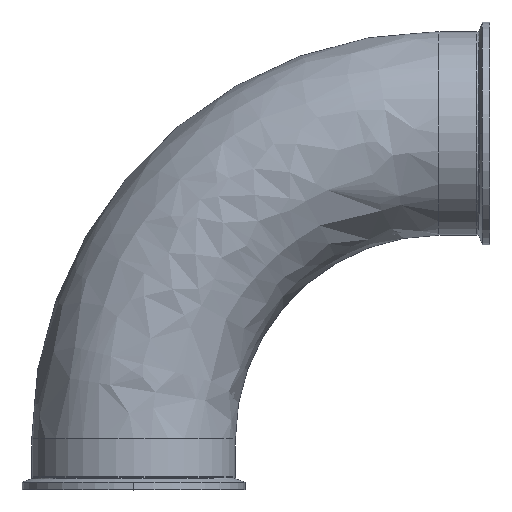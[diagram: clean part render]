
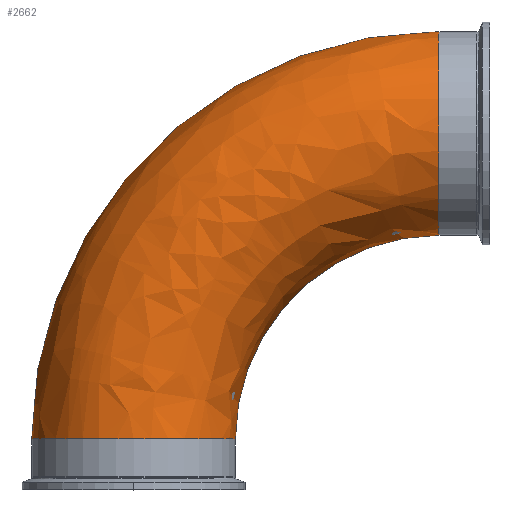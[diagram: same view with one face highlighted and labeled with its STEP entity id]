
A CAD part, top view. The second image highlights one B-rep face of the part: STEP entity #2662.
In plain terms, the highlighted free-form (B-spline) face has degree [3, 3] with [4, 4] control points.
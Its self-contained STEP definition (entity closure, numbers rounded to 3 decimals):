
#44 = CARTESIAN_POINT ( 'NONE',  ( 76.2, 28.1, 152.4 ) ) ;
#395 = CARTESIAN_POINT ( 'NONE',  ( 139.326, 180.5, 152.4 ) ) ;
#505 = VERTEX_POINT ( 'NONE', #1196 ) ;
#550 = EDGE_LOOP ( 'NONE', ( #1767, #1902, #2512, #2394 ) ) ;
#715 = CARTESIAN_POINT ( 'NONE',  ( 76.2, 28.1, 0. ) ) ;
#821 = EDGE_CURVE ( 'NONE', #3144, #505, #1293, .T. ) ;
#827 = CARTESIAN_POINT ( 'NONE',  ( 228.6, 256.7, 0. ) ) ;
#1040 = CARTESIAN_POINT ( 'NONE',  ( 139.326, 180.5, 0. ) ) ;
#1160 = DIRECTION ( 'NONE',  ( 0., 1., 0. ) ) ;
#1196 = CARTESIAN_POINT ( 'NONE',  ( 76.2, 28.1, 0. ) ) ;
#1293 = CIRCLE ( 'NONE', #3951, 76.2 ) ;
#1294 = FACE_OUTER_BOUND ( 'NONE', #550, .T. ) ;
#1350 = CARTESIAN_POINT ( 'NONE',  ( 228.6, 332.9, 0. ) ) ;
#1666 = DIRECTION ( 'NONE',  ( 0., 0., -1. ) ) ;
#1671 = CARTESIAN_POINT ( 'NONE',  ( -76.2, 206.648, 152.4 ) ) ;
#1767 = ORIENTED_EDGE ( 'NONE', *, *, #821, .T. ) ;
#1807 = CARTESIAN_POINT ( 'NONE',  ( 228.6, 28.1, 0. ) ) ;
#1902 = ORIENTED_EDGE ( 'NONE', *, *, #3214, .T. ) ;
#1973 = CARTESIAN_POINT ( 'NONE',  ( 228.6, 180.5, 0. ) ) ;
#1998 = CARTESIAN_POINT ( 'NONE',  ( 228.6, 332.9, 152.4 ) ) ;
#2141 = DIRECTION ( 'NONE',  ( -1., 0., 0. ) ) ;
#2353 = CARTESIAN_POINT ( 'NONE',  ( 76.2, 117.374, 152.4 ) ) ;
#2394 = ORIENTED_EDGE ( 'NONE', *, *, #2863, .F. ) ;
#2512 = ORIENTED_EDGE ( 'NONE', *, *, #4203, .T. ) ;
#2656 = CARTESIAN_POINT ( 'NONE',  ( -76.2, 28.1, 0. ) ) ;
#2662 = ADVANCED_FACE ( 'NONE', ( #1294 ), #3917, .T. ) ;
#2673 = CARTESIAN_POINT ( 'NONE',  ( 228.6, 180.5, 152.4 ) ) ;
#2688 = AXIS2_PLACEMENT_3D ( 'NONE', #3675, #1666, #3996 ) ;
#2781 = CARTESIAN_POINT ( 'NONE',  ( -76.2, 28.1, 0. ) ) ;
#2863 = EDGE_CURVE ( 'NONE', #3144, #4022, #3222, .T. ) ;
#2885 = VERTEX_POINT ( 'NONE', #1973 ) ;
#2997 = CARTESIAN_POINT ( 'NONE',  ( -76.2, 206.648, 0. ) ) ;
#3015 = CARTESIAN_POINT ( 'NONE',  ( 76.2, 117.374, 0. ) ) ;
#3038 = AXIS2_PLACEMENT_3D ( 'NONE', #827, #3150, #1160 ) ;
#3089 = CARTESIAN_POINT ( 'NONE',  ( 228.6, 332.9, 0. ) ) ;
#3144 = VERTEX_POINT ( 'NONE', #2781 ) ;
#3150 = DIRECTION ( 'NONE',  ( -1., 0., 0. ) ) ;
#3214 = EDGE_CURVE ( 'NONE', #505, #2885, #3421, .T. ) ;
#3222 = CIRCLE ( 'NONE', #2688, 304.8 ) ;
#3372 = CARTESIAN_POINT ( 'NONE',  ( 228.6, 180.5, 0. ) ) ;
#3421 = CIRCLE ( 'NONE', #3724, 152.4 ) ;
#3667 = CARTESIAN_POINT ( 'NONE',  ( 50.052, 332.9, 0. ) ) ;
#3669 = CIRCLE ( 'NONE', #3038, 76.2 ) ;
#3675 = CARTESIAN_POINT ( 'NONE',  ( 228.6, 28.1, 0. ) ) ;
#3682 = CARTESIAN_POINT ( 'NONE',  ( -76.2, 28.1, 152.4 ) ) ;
#3724 = AXIS2_PLACEMENT_3D ( 'NONE', #1807, #4124, #2141 ) ;
#3898 = DIRECTION ( 'NONE',  ( -1., 0., 0. ) ) ;
#3917 =( BOUNDED_SURFACE ( )  B_SPLINE_SURFACE ( 3, 3, ( 
 ( #2656, #2997, #3667, #1350 ),
 ( #3682, #1671, #4002, #1998 ),
 ( #44, #2353, #395, #2673 ),
 ( #715, #3015, #1040, #3372 ) ),
 .UNSPECIFIED., .F., .F., .F. ) 
 B_SPLINE_SURFACE_WITH_KNOTS ( ( 4, 4 ),
 ( 4, 4 ),
 ( 0., 1. ),
 ( 0., 1. ),
 .UNSPECIFIED. ) 
 GEOMETRIC_REPRESENTATION_ITEM ( )  RATIONAL_B_SPLINE_SURFACE ( (
 ( 1., 0.805, 0.805, 1.),
 ( 0.333, 0.268, 0.268, 0.333),
 ( 0.333, 0.268, 0.268, 0.333),
 ( 1., 0.805, 0.805, 1.) ) ) 
 REPRESENTATION_ITEM ( '' )  SURFACE ( )  );
#3943 = DIRECTION ( 'NONE',  ( 0., 1., 0. ) ) ;
#3951 = AXIS2_PLACEMENT_3D ( 'NONE', #3978, #3943, #3898 ) ;
#3978 = CARTESIAN_POINT ( 'NONE',  ( 0., 28.1, 0. ) ) ;
#3996 = DIRECTION ( 'NONE',  ( -1., 0., 0. ) ) ;
#4002 = CARTESIAN_POINT ( 'NONE',  ( 50.052, 332.9, 152.4 ) ) ;
#4022 = VERTEX_POINT ( 'NONE', #3089 ) ;
#4124 = DIRECTION ( 'NONE',  ( 0., 0., -1. ) ) ;
#4203 = EDGE_CURVE ( 'NONE', #2885, #4022, #3669, .T. ) ;
